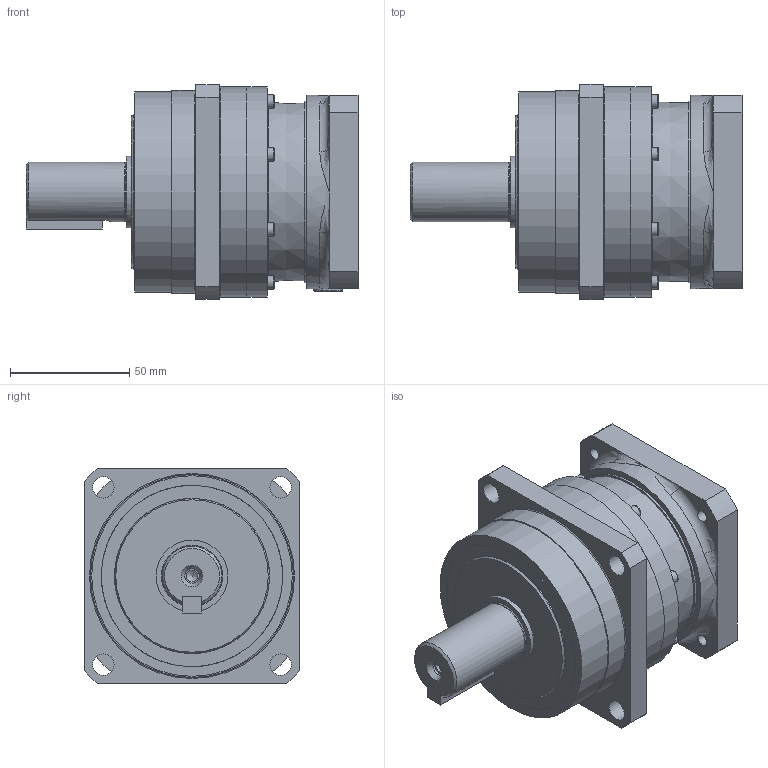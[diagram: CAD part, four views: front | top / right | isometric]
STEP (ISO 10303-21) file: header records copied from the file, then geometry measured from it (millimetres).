
FILE_DESCRIPTION(/* description */ ('ANFX-P120W-1-1G'),/* implementation_level */ '2;1');
FILE_NAME(/* name */ 'C:\Users\ADMINI~1\AppData\Local\Temp\MM581884_ANFX-P120W-1-1G.stp',/* time_stamp */ '2018-06-20T09:39:58+02:00',/* author */ ('Max'),/* organization */ (''),/* preprocessor_version */ 'ST-DEVELOPER v17',/* originating_system */ 'Autodesk Inventor 2018',/* authorisation */ '');
FILE_SCHEMA (('AUTOMOTIVE_DESIGN { 1 0 10303 214 3 1 1 }'));
Length unit declared in the file: millimetre
Products named in the file (21): MM581710; MMBG0004078; MMCL445LG; MMCM226LG; MAX4840G; MAW8381G; M202625; MMBG0004105; MMCH509LG; M204639; M204639-1; M204639-2; M204639-3; M204639-4; M009M003R014NG; M530A30508---G; MMAP6499G; 009M005R014NG; MMCH633LG; 200458; MAW8386G
Assembly tree (46 placements, depth 4):
  MM581710
    MMBG0004078
      MMCL445LG
      MMCM226LG
      MAX4840G
      MAW8381G
      M202625
    MMBG0004105
      MMCH509LG
      M204639
        M204639-1
        M204639-2
        M204639-3  x2
        M204639-4  x12
      M009M003R014NG  x8
      M530A30508---G
      MMAP6499G
      009M005R014NG
    MMCH633LG
    200458  x8
    MAW8386G
Bounding box: 139 x 90 x 90 mm (x, y, z)
Volume: 363951.7 mm3; surface area: 153411.9 mm2
Topology: 85 solids, 85 shells, 663 faces, 1875 edges, 1327 vertices
Faces by surface type: plane 278, cylinder 184, cone 82, torus 60, sphere 53, bspline 6
Full cylindrical faces by diameter (mm): 2 x1, 2.459 x10, 3 x8, 3.4 x8, 4.134 x9, 4.917 x5, 5 x9, 5.5 x17, 6.2 x1, 8.5 x9, 9 x4, 9.5 x8, 9.8 x1, 10 x1, 10.2 x1, 10.4 x1, 12 x1, 14 x1, 19.5 x1, 24 x1, 25 x1, 28.6 x1, 29 x1, 29.4 x1, 29.6 x1, 30 x3, 32 x1, 34.2 x1, 35 x1, 38.25 x4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
Entity records: 16102 total; most frequent: CARTESIAN_POINT 3288, DIRECTION 2807, ORIENTED_EDGE 2290, AXIS2_PLACEMENT_3D 1236, EDGE_CURVE 1145, VERTEX_POINT 889, CIRCLE 742, EDGE_LOOP 570
